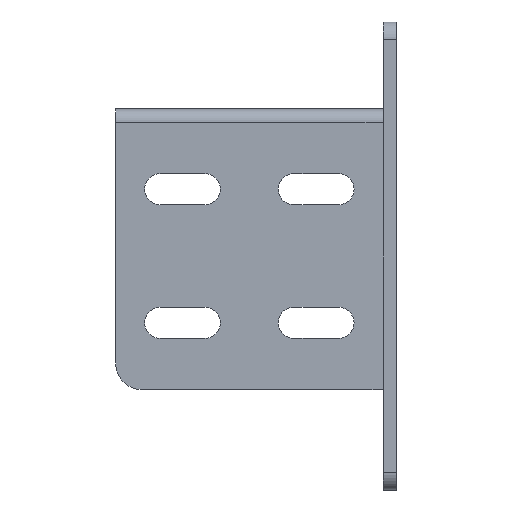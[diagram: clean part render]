
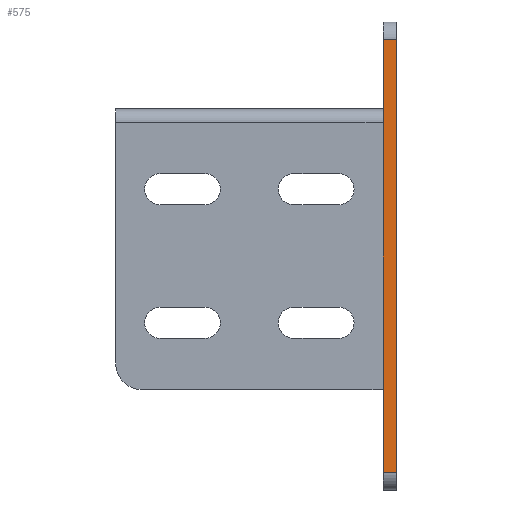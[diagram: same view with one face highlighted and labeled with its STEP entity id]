
A CAD part, left-side view. The second image highlights one B-rep face of the part: STEP entity #575.
In plain terms, the highlighted planar face has unit normal (-1, 0, 0).
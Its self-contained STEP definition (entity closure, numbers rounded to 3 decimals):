
#18 = PLANE ( 'NONE',  #2271 ) ;
#35 = VECTOR ( 'NONE', #344, 1000. ) ;
#57 = DIRECTION ( 'NONE',  ( 0., 0., -1. ) ) ;
#117 = CARTESIAN_POINT ( 'NONE',  ( -52.5, 3., -48.5 ) ) ;
#190 = CARTESIAN_POINT ( 'NONE',  ( -52.5, 3., 48.5 ) ) ;
#300 = VECTOR ( 'NONE', #1396, 1000. ) ;
#344 = DIRECTION ( 'NONE',  ( 0., 0., 1. ) ) ;
#481 = LINE ( 'NONE', #117, #1323 ) ;
#575 = ADVANCED_FACE ( 'NONE', ( #1692 ), #18, .F. ) ;
#646 = CARTESIAN_POINT ( 'NONE',  ( -52.5, 3., 48.5 ) ) ;
#660 = CARTESIAN_POINT ( 'NONE',  ( -52.5, 0., -52.5 ) ) ;
#737 = DIRECTION ( 'NONE',  ( 1., 0., 0. ) ) ;
#824 = VERTEX_POINT ( 'NONE', #190 ) ;
#835 = DIRECTION ( 'NONE',  ( 0., -1., 0. ) ) ;
#909 = ORIENTED_EDGE ( 'NONE', *, *, #935, .T. ) ;
#926 = EDGE_CURVE ( 'NONE', #2208, #1434, #2334, .T. ) ;
#935 = EDGE_CURVE ( 'NONE', #1434, #824, #2152, .T. ) ;
#971 = VECTOR ( 'NONE', #1409, 1000. ) ;
#1053 = CARTESIAN_POINT ( 'NONE',  ( -52.5, 0., -48.5 ) ) ;
#1252 = CARTESIAN_POINT ( 'NONE',  ( -52.5, 3., -52.5 ) ) ;
#1296 = CARTESIAN_POINT ( 'NONE',  ( -52.5, 3., -52.5 ) ) ;
#1309 = EDGE_CURVE ( 'NONE', #1617, #824, #1442, .T. ) ;
#1323 = VECTOR ( 'NONE', #835, 1000. ) ;
#1396 = DIRECTION ( 'NONE',  ( 0., 1., 0. ) ) ;
#1409 = DIRECTION ( 'NONE',  ( 0., 0., 1. ) ) ;
#1434 = VERTEX_POINT ( 'NONE', #1924 ) ;
#1442 = LINE ( 'NONE', #1252, #35 ) ;
#1487 = ORIENTED_EDGE ( 'NONE', *, *, #1309, .F. ) ;
#1617 = VERTEX_POINT ( 'NONE', #2094 ) ;
#1692 = FACE_OUTER_BOUND ( 'NONE', #2222, .T. ) ;
#1924 = CARTESIAN_POINT ( 'NONE',  ( -52.5, 0., 48.5 ) ) ;
#2024 = ORIENTED_EDGE ( 'NONE', *, *, #926, .T. ) ;
#2094 = CARTESIAN_POINT ( 'NONE',  ( -52.5, 3., -48.5 ) ) ;
#2125 = ORIENTED_EDGE ( 'NONE', *, *, #2368, .T. ) ;
#2152 = LINE ( 'NONE', #646, #300 ) ;
#2208 = VERTEX_POINT ( 'NONE', #1053 ) ;
#2222 = EDGE_LOOP ( 'NONE', ( #1487, #2125, #2024, #909 ) ) ;
#2271 = AXIS2_PLACEMENT_3D ( 'NONE', #1296, #737, #57 ) ;
#2334 = LINE ( 'NONE', #660, #971 ) ;
#2368 = EDGE_CURVE ( 'NONE', #1617, #2208, #481, .T. ) ;
